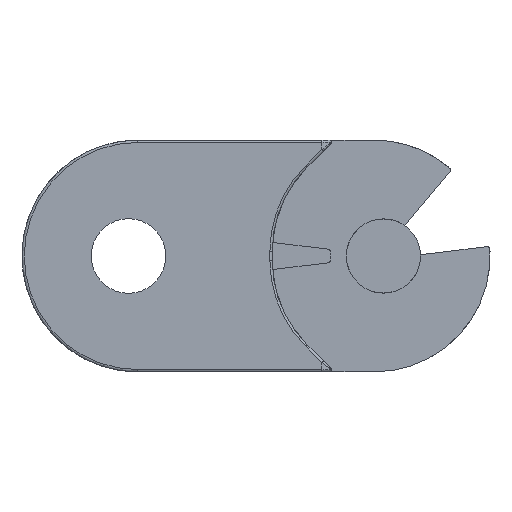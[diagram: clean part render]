
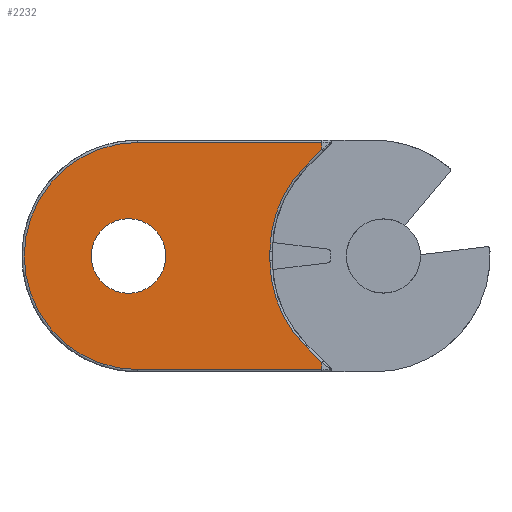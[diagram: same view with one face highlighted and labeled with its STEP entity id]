
A CAD part, left-side view. The second image highlights one B-rep face of the part: STEP entity #2232.
In plain terms, the highlighted free-form (B-spline) face has degree [1, 1] with [2, 2] control points.
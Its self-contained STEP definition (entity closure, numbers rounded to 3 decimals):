
#2131=CARTESIAN_POINT('',(-84.94,50.25,0.502));
#2132=CARTESIAN_POINT('',(-84.94,-14.302,0.502));
#2133=CARTESIAN_POINT('',(-84.94,50.25,49.747));
#2134=CARTESIAN_POINT('',(-84.94,-14.302,49.747));
#2135=B_SPLINE_SURFACE_WITH_KNOTS('',1,1,((#2131,#2133),(#2132,#2134)),.UNSPECIFIED.,.F.,.F.,.U.,(2,2),(2,2),(0.0,64.552),(0.0,49.245),.UNSPECIFIED.);
#2136=CARTESIAN_POINT('',(-84.94,-14.302,48.24));
#2137=VERTEX_POINT('',#2136);
#2138=CARTESIAN_POINT('',(-84.94,-14.302,49.747));
#2139=VERTEX_POINT('',#2138);
#2140=CARTESIAN_POINT('',(-84.94,-14.302,48.24));
#2141=DIRECTION('',(0.0,0.0,1.0));
#2142=VECTOR('',#2141,1.508);
#2143=LINE('',#2140,#2142);
#2144=EDGE_CURVE('',#2137,#2139,#2143,.T.);
#2145=ORIENTED_EDGE('',*,*,#2144,.T.);
#2146=CARTESIAN_POINT('',(-84.94,25.628,49.747));
#2147=VERTEX_POINT('',#2146);
#2148=CARTESIAN_POINT('',(-84.94,-14.302,49.747));
#2149=DIRECTION('',(0.0,1.0,0.0));
#2150=VECTOR('',#2149,39.929);
#2151=LINE('',#2148,#2150);
#2152=EDGE_CURVE('',#2139,#2147,#2151,.T.);
#2153=ORIENTED_EDGE('',*,*,#2152,.T.);
#2154=CARTESIAN_POINT('',(-84.94,25.628,0.502));
#2155=VERTEX_POINT('',#2154);
#2156=CARTESIAN_POINT('',(-84.94,25.628,25.125));
#2157=DIRECTION('',(-1.0,0.0,0.0));
#2158=DIRECTION('',(0.0,1.0,0.0));
#2159=AXIS2_PLACEMENT_3D('',#2156,#2157,#2158);
#2160=CIRCLE('',#2159,24.622);
#2161=EDGE_CURVE('',#2147,#2155,#2160,.T.);
#2162=ORIENTED_EDGE('',*,*,#2161,.T.);
#2163=CARTESIAN_POINT('',(-84.94,-14.302,0.502));
#2164=VERTEX_POINT('',#2163);
#2165=CARTESIAN_POINT('',(-84.94,25.628,0.502));
#2166=DIRECTION('',(0.0,-1.0,0.0));
#2167=VECTOR('',#2166,39.929);
#2168=LINE('',#2165,#2167);
#2169=EDGE_CURVE('',#2155,#2164,#2168,.T.);
#2170=ORIENTED_EDGE('',*,*,#2169,.T.);
#2171=CARTESIAN_POINT('',(-84.94,-14.302,2.01));
#2172=VERTEX_POINT('',#2171);
#2173=CARTESIAN_POINT('',(-84.94,-14.302,2.01));
#2174=DIRECTION('',(0.0,0.0,-1.0));
#2175=VECTOR('',#2174,1.508);
#2176=LINE('',#2173,#2175);
#2177=EDGE_CURVE('',#2172,#2164,#2176,.T.);
#2178=ORIENTED_EDGE('',*,*,#2177,.F.);
#2179=CARTESIAN_POINT('',(-84.94,-10.668,5.643));
#2180=VERTEX_POINT('',#2179);
#2181=CARTESIAN_POINT('',(-84.94,-14.302,2.01));
#2182=DIRECTION('',(0.0,0.707,0.707));
#2183=VECTOR('',#2182,5.138);
#2184=LINE('',#2181,#2183);
#2185=EDGE_CURVE('',#2172,#2180,#2184,.T.);
#2186=ORIENTED_EDGE('',*,*,#2185,.T.);
#2187=CARTESIAN_POINT('',(-84.94,-3.015,24.12));
#2188=VERTEX_POINT('',#2187);
#2189=CARTESIAN_POINT('',(-84.94,-29.145,24.12));
#2190=DIRECTION('',(1.0,0.0,0.0));
#2191=DIRECTION('',(0.0,1.0,0.0));
#2192=AXIS2_PLACEMENT_3D('',#2189,#2190,#2191);
#2193=CIRCLE('',#2192,26.13);
#2194=EDGE_CURVE('',#2180,#2188,#2193,.T.);
#2195=ORIENTED_EDGE('',*,*,#2194,.T.);
#2196=CARTESIAN_POINT('',(-84.94,-3.015,26.13));
#2197=VERTEX_POINT('',#2196);
#2198=CARTESIAN_POINT('',(-84.94,-3.015,24.12));
#2199=DIRECTION('',(0.0,0.0,1.0));
#2200=VECTOR('',#2199,2.01);
#2201=LINE('',#2198,#2200);
#2202=EDGE_CURVE('',#2188,#2197,#2201,.T.);
#2203=ORIENTED_EDGE('',*,*,#2202,.T.);
#2204=CARTESIAN_POINT('',(-84.94,-10.668,44.607));
#2205=VERTEX_POINT('',#2204);
#2206=CARTESIAN_POINT('',(-84.94,-29.145,26.13));
#2207=DIRECTION('',(1.0,0.0,0.0));
#2208=DIRECTION('',(0.0,1.0,0.0));
#2209=AXIS2_PLACEMENT_3D('',#2206,#2207,#2208);
#2210=CIRCLE('',#2209,26.13);
#2211=EDGE_CURVE('',#2197,#2205,#2210,.T.);
#2212=ORIENTED_EDGE('',*,*,#2211,.T.);
#2213=CARTESIAN_POINT('',(-84.94,-10.668,44.607));
#2214=DIRECTION('',(0.,-0.707,0.707));
#2215=VECTOR('',#2214,5.138);
#2216=LINE('',#2213,#2215);
#2217=EDGE_CURVE('',#2205,#2137,#2216,.T.);
#2218=ORIENTED_EDGE('',*,*,#2217,.T.);
#2219=EDGE_LOOP('',(#2145,#2153,#2162,#2170,#2178,#2186,#2195,#2203,#2212,#2218));
#2220=FACE_OUTER_BOUND('',#2219,.T.);
#2221=CARTESIAN_POINT('',(-84.94,35.728,25.125));
#2222=VERTEX_POINT('',#2221);
#2223=CARTESIAN_POINT('',(-84.94,27.638,25.125));
#2224=DIRECTION('',(-1.0,0.0,0.0));
#2225=DIRECTION('',(0.0,1.0,0.0));
#2226=AXIS2_PLACEMENT_3D('',#2223,#2224,#2225);
#2227=CIRCLE('',#2226,8.09);
#2228=EDGE_CURVE('',#2222,#2222,#2227,.T.);
#2229=ORIENTED_EDGE('',*,*,#2228,.F.);
#2230=EDGE_LOOP('',(#2229));
#2231=FACE_BOUND('',#2230,.T.);
#2232=ADVANCED_FACE('',(#2220,#2231),#2135,.T.);
